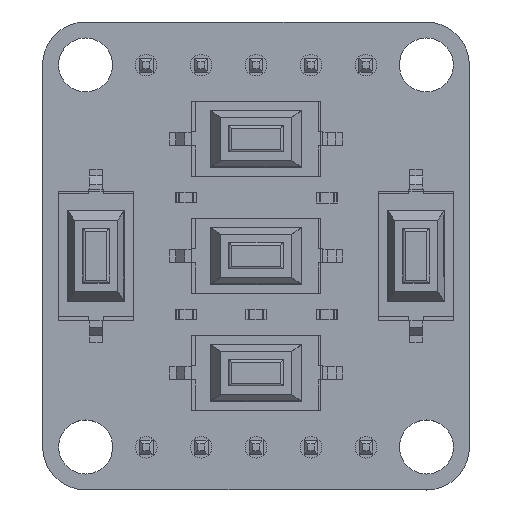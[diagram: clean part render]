
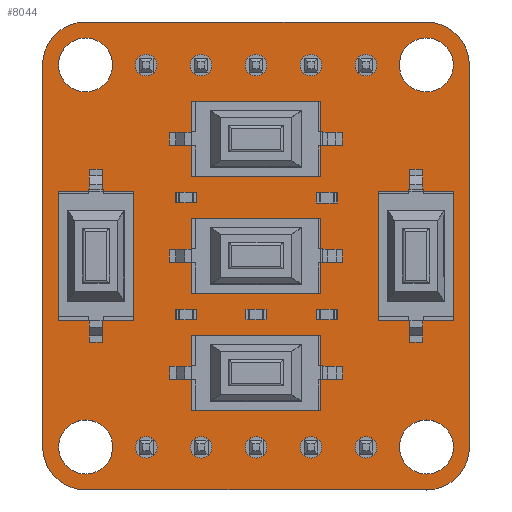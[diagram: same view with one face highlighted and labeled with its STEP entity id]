
A CAD part, top view. The second image highlights one B-rep face of the part: STEP entity #8044.
In plain terms, the highlighted planar face has unit normal (0, 0, 1).
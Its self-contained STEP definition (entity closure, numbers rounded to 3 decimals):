
#7741 = VERTEX_POINT('',#7742);
#7742 = CARTESIAN_POINT('',(187.182,-85.744,1.6));
#7748 = EDGE_CURVE('',#7741,#7749,#7751,.T.);
#7749 = VERTEX_POINT('',#7750);
#7750 = CARTESIAN_POINT('',(189.168,-87.73,1.6));
#7751 = CIRCLE('',#7752,1.986);
#7752 = AXIS2_PLACEMENT_3D('',#7753,#7754,#7755);
#7753 = CARTESIAN_POINT('',(187.182,-87.73,1.6));
#7754 = DIRECTION('',(0.,0.,-1.));
#7755 = DIRECTION('',(0.,1.,0.));
#7783 = VERTEX_POINT('',#7784);
#7784 = CARTESIAN_POINT('',(171.423,-85.744,1.6));
#7790 = EDGE_CURVE('',#7783,#7741,#7791,.T.);
#7791 = LINE('',#7792,#7793);
#7792 = CARTESIAN_POINT('',(171.423,-85.744,1.6));
#7793 = VECTOR('',#7794,1.);
#7794 = DIRECTION('',(1.,0.,0.));
#7812 = EDGE_CURVE('',#7749,#7813,#7815,.T.);
#7813 = VERTEX_POINT('',#7814);
#7814 = CARTESIAN_POINT('',(189.174,-105.395,1.6));
#7815 = LINE('',#7816,#7817);
#7816 = CARTESIAN_POINT('',(189.168,-87.73,1.6));
#7817 = VECTOR('',#7818,1.);
#7818 = DIRECTION('',(0.,-1.,0.));
#8044 = ADVANCED_FACE('',(#8045,#8091,#8102,#8113,#8124,#8135,#8146,
    #8157,#8168,#8179,#8190,#8201,#8212,#8223,#8234),#8245,.T.);
#8045 = FACE_BOUND('',#8046,.T.);
#8046 = EDGE_LOOP('',(#8047,#8048,#8049,#8058,#8066,#8075,#8083,#8090));
#8047 = ORIENTED_EDGE('',*,*,#7748,.F.);
#8048 = ORIENTED_EDGE('',*,*,#7790,.F.);
#8049 = ORIENTED_EDGE('',*,*,#8050,.F.);
#8050 = EDGE_CURVE('',#8051,#7783,#8053,.T.);
#8051 = VERTEX_POINT('',#8052);
#8052 = CARTESIAN_POINT('',(169.437,-87.73,1.6));
#8053 = CIRCLE('',#8054,1.986);
#8054 = AXIS2_PLACEMENT_3D('',#8055,#8056,#8057);
#8055 = CARTESIAN_POINT('',(171.423,-87.73,1.6));
#8056 = DIRECTION('',(0.,0.,-1.));
#8057 = DIRECTION('',(-1.,0.,0.));
#8058 = ORIENTED_EDGE('',*,*,#8059,.F.);
#8059 = EDGE_CURVE('',#8060,#8051,#8062,.T.);
#8060 = VERTEX_POINT('',#8061);
#8061 = CARTESIAN_POINT('',(169.443,-105.395,1.6));
#8062 = LINE('',#8063,#8064);
#8063 = CARTESIAN_POINT('',(169.443,-105.395,1.6));
#8064 = VECTOR('',#8065,1.);
#8065 = DIRECTION('',(0.,1.,0.));
#8066 = ORIENTED_EDGE('',*,*,#8067,.F.);
#8067 = EDGE_CURVE('',#8068,#8060,#8070,.T.);
#8068 = VERTEX_POINT('',#8069);
#8069 = CARTESIAN_POINT('',(171.429,-107.381,1.6));
#8070 = CIRCLE('',#8071,1.986);
#8071 = AXIS2_PLACEMENT_3D('',#8072,#8073,#8074);
#8072 = CARTESIAN_POINT('',(171.429,-105.395,1.6));
#8073 = DIRECTION('',(0.,0.,-1.));
#8074 = DIRECTION('',(0.,-1.,-0.));
#8075 = ORIENTED_EDGE('',*,*,#8076,.F.);
#8076 = EDGE_CURVE('',#8077,#8068,#8079,.T.);
#8077 = VERTEX_POINT('',#8078);
#8078 = CARTESIAN_POINT('',(187.188,-107.381,1.6));
#8079 = LINE('',#8080,#8081);
#8080 = CARTESIAN_POINT('',(187.188,-107.381,1.6));
#8081 = VECTOR('',#8082,1.);
#8082 = DIRECTION('',(-1.,0.,0.));
#8083 = ORIENTED_EDGE('',*,*,#8084,.F.);
#8084 = EDGE_CURVE('',#7813,#8077,#8085,.T.);
#8085 = CIRCLE('',#8086,1.986);
#8086 = AXIS2_PLACEMENT_3D('',#8087,#8088,#8089);
#8087 = CARTESIAN_POINT('',(187.188,-105.395,1.6));
#8088 = DIRECTION('',(0.,0.,-1.));
#8089 = DIRECTION('',(1.,0.,0.));
#8090 = ORIENTED_EDGE('',*,*,#7812,.F.);
#8091 = FACE_BOUND('',#8092,.T.);
#8092 = EDGE_LOOP('',(#8093));
#8093 = ORIENTED_EDGE('',*,*,#8094,.T.);
#8094 = EDGE_CURVE('',#8095,#8095,#8097,.T.);
#8095 = VERTEX_POINT('',#8096);
#8096 = CARTESIAN_POINT('',(171.429,-106.645,1.6));
#8097 = CIRCLE('',#8098,1.25);
#8098 = AXIS2_PLACEMENT_3D('',#8099,#8100,#8101);
#8099 = CARTESIAN_POINT('',(171.429,-105.395,1.6));
#8100 = DIRECTION('',(-0.,0.,-1.));
#8101 = DIRECTION('',(-0.,-1.,0.));
#8102 = FACE_BOUND('',#8103,.T.);
#8103 = EDGE_LOOP('',(#8104));
#8104 = ORIENTED_EDGE('',*,*,#8105,.T.);
#8105 = EDGE_CURVE('',#8106,#8106,#8108,.T.);
#8106 = VERTEX_POINT('',#8107);
#8107 = CARTESIAN_POINT('',(174.23,-105.91,1.6));
#8108 = CIRCLE('',#8109,0.5);
#8109 = AXIS2_PLACEMENT_3D('',#8110,#8111,#8112);
#8110 = CARTESIAN_POINT('',(174.23,-105.41,1.6));
#8111 = DIRECTION('',(-0.,0.,-1.));
#8112 = DIRECTION('',(-0.,-1.,0.));
#8113 = FACE_BOUND('',#8114,.T.);
#8114 = EDGE_LOOP('',(#8115));
#8115 = ORIENTED_EDGE('',*,*,#8116,.T.);
#8116 = EDGE_CURVE('',#8117,#8117,#8119,.T.);
#8117 = VERTEX_POINT('',#8118);
#8118 = CARTESIAN_POINT('',(176.77,-105.91,1.6));
#8119 = CIRCLE('',#8120,0.5);
#8120 = AXIS2_PLACEMENT_3D('',#8121,#8122,#8123);
#8121 = CARTESIAN_POINT('',(176.77,-105.41,1.6));
#8122 = DIRECTION('',(-0.,0.,-1.));
#8123 = DIRECTION('',(-0.,-1.,0.));
#8124 = FACE_BOUND('',#8125,.T.);
#8125 = EDGE_LOOP('',(#8126));
#8126 = ORIENTED_EDGE('',*,*,#8127,.T.);
#8127 = EDGE_CURVE('',#8128,#8128,#8130,.T.);
#8128 = VERTEX_POINT('',#8129);
#8129 = CARTESIAN_POINT('',(179.31,-105.91,1.6));
#8130 = CIRCLE('',#8131,0.5);
#8131 = AXIS2_PLACEMENT_3D('',#8132,#8133,#8134);
#8132 = CARTESIAN_POINT('',(179.31,-105.41,1.6));
#8133 = DIRECTION('',(-0.,0.,-1.));
#8134 = DIRECTION('',(-0.,-1.,0.));
#8135 = FACE_BOUND('',#8136,.T.);
#8136 = EDGE_LOOP('',(#8137));
#8137 = ORIENTED_EDGE('',*,*,#8138,.T.);
#8138 = EDGE_CURVE('',#8139,#8139,#8141,.T.);
#8139 = VERTEX_POINT('',#8140);
#8140 = CARTESIAN_POINT('',(181.85,-105.91,1.6));
#8141 = CIRCLE('',#8142,0.5);
#8142 = AXIS2_PLACEMENT_3D('',#8143,#8144,#8145);
#8143 = CARTESIAN_POINT('',(181.85,-105.41,1.6));
#8144 = DIRECTION('',(-0.,0.,-1.));
#8145 = DIRECTION('',(-0.,-1.,0.));
#8146 = FACE_BOUND('',#8147,.T.);
#8147 = EDGE_LOOP('',(#8148));
#8148 = ORIENTED_EDGE('',*,*,#8149,.T.);
#8149 = EDGE_CURVE('',#8150,#8150,#8152,.T.);
#8150 = VERTEX_POINT('',#8151);
#8151 = CARTESIAN_POINT('',(184.39,-105.91,1.6));
#8152 = CIRCLE('',#8153,0.5);
#8153 = AXIS2_PLACEMENT_3D('',#8154,#8155,#8156);
#8154 = CARTESIAN_POINT('',(184.39,-105.41,1.6));
#8155 = DIRECTION('',(-0.,0.,-1.));
#8156 = DIRECTION('',(-0.,-1.,0.));
#8157 = FACE_BOUND('',#8158,.T.);
#8158 = EDGE_LOOP('',(#8159));
#8159 = ORIENTED_EDGE('',*,*,#8160,.T.);
#8160 = EDGE_CURVE('',#8161,#8161,#8163,.T.);
#8161 = VERTEX_POINT('',#8162);
#8162 = CARTESIAN_POINT('',(187.188,-106.645,1.6));
#8163 = CIRCLE('',#8164,1.25);
#8164 = AXIS2_PLACEMENT_3D('',#8165,#8166,#8167);
#8165 = CARTESIAN_POINT('',(187.188,-105.395,1.6));
#8166 = DIRECTION('',(-0.,0.,-1.));
#8167 = DIRECTION('',(-0.,-1.,0.));
#8168 = FACE_BOUND('',#8169,.T.);
#8169 = EDGE_LOOP('',(#8170));
#8170 = ORIENTED_EDGE('',*,*,#8171,.T.);
#8171 = EDGE_CURVE('',#8172,#8172,#8174,.T.);
#8172 = VERTEX_POINT('',#8173);
#8173 = CARTESIAN_POINT('',(171.423,-88.98,1.6));
#8174 = CIRCLE('',#8175,1.25);
#8175 = AXIS2_PLACEMENT_3D('',#8176,#8177,#8178);
#8176 = CARTESIAN_POINT('',(171.423,-87.73,1.6));
#8177 = DIRECTION('',(-0.,0.,-1.));
#8178 = DIRECTION('',(-0.,-1.,0.));
#8179 = FACE_BOUND('',#8180,.T.);
#8180 = EDGE_LOOP('',(#8181));
#8181 = ORIENTED_EDGE('',*,*,#8182,.T.);
#8182 = EDGE_CURVE('',#8183,#8183,#8185,.T.);
#8183 = VERTEX_POINT('',#8184);
#8184 = CARTESIAN_POINT('',(174.225,-88.24,1.6));
#8185 = CIRCLE('',#8186,0.5);
#8186 = AXIS2_PLACEMENT_3D('',#8187,#8188,#8189);
#8187 = CARTESIAN_POINT('',(174.225,-87.74,1.6));
#8188 = DIRECTION('',(-0.,0.,-1.));
#8189 = DIRECTION('',(-0.,-1.,0.));
#8190 = FACE_BOUND('',#8191,.T.);
#8191 = EDGE_LOOP('',(#8192));
#8192 = ORIENTED_EDGE('',*,*,#8193,.T.);
#8193 = EDGE_CURVE('',#8194,#8194,#8196,.T.);
#8194 = VERTEX_POINT('',#8195);
#8195 = CARTESIAN_POINT('',(176.765,-88.24,1.6));
#8196 = CIRCLE('',#8197,0.5);
#8197 = AXIS2_PLACEMENT_3D('',#8198,#8199,#8200);
#8198 = CARTESIAN_POINT('',(176.765,-87.74,1.6));
#8199 = DIRECTION('',(-0.,0.,-1.));
#8200 = DIRECTION('',(-0.,-1.,0.));
#8201 = FACE_BOUND('',#8202,.T.);
#8202 = EDGE_LOOP('',(#8203));
#8203 = ORIENTED_EDGE('',*,*,#8204,.T.);
#8204 = EDGE_CURVE('',#8205,#8205,#8207,.T.);
#8205 = VERTEX_POINT('',#8206);
#8206 = CARTESIAN_POINT('',(179.305,-88.24,1.6));
#8207 = CIRCLE('',#8208,0.5);
#8208 = AXIS2_PLACEMENT_3D('',#8209,#8210,#8211);
#8209 = CARTESIAN_POINT('',(179.305,-87.74,1.6));
#8210 = DIRECTION('',(-0.,0.,-1.));
#8211 = DIRECTION('',(-0.,-1.,0.));
#8212 = FACE_BOUND('',#8213,.T.);
#8213 = EDGE_LOOP('',(#8214));
#8214 = ORIENTED_EDGE('',*,*,#8215,.T.);
#8215 = EDGE_CURVE('',#8216,#8216,#8218,.T.);
#8216 = VERTEX_POINT('',#8217);
#8217 = CARTESIAN_POINT('',(181.845,-88.24,1.6));
#8218 = CIRCLE('',#8219,0.5);
#8219 = AXIS2_PLACEMENT_3D('',#8220,#8221,#8222);
#8220 = CARTESIAN_POINT('',(181.845,-87.74,1.6));
#8221 = DIRECTION('',(-0.,0.,-1.));
#8222 = DIRECTION('',(-0.,-1.,0.));
#8223 = FACE_BOUND('',#8224,.T.);
#8224 = EDGE_LOOP('',(#8225));
#8225 = ORIENTED_EDGE('',*,*,#8226,.T.);
#8226 = EDGE_CURVE('',#8227,#8227,#8229,.T.);
#8227 = VERTEX_POINT('',#8228);
#8228 = CARTESIAN_POINT('',(184.385,-88.24,1.6));
#8229 = CIRCLE('',#8230,0.5);
#8230 = AXIS2_PLACEMENT_3D('',#8231,#8232,#8233);
#8231 = CARTESIAN_POINT('',(184.385,-87.74,1.6));
#8232 = DIRECTION('',(-0.,0.,-1.));
#8233 = DIRECTION('',(-0.,-1.,0.));
#8234 = FACE_BOUND('',#8235,.T.);
#8235 = EDGE_LOOP('',(#8236));
#8236 = ORIENTED_EDGE('',*,*,#8237,.T.);
#8237 = EDGE_CURVE('',#8238,#8238,#8240,.T.);
#8238 = VERTEX_POINT('',#8239);
#8239 = CARTESIAN_POINT('',(187.182,-88.98,1.6));
#8240 = CIRCLE('',#8241,1.25);
#8241 = AXIS2_PLACEMENT_3D('',#8242,#8243,#8244);
#8242 = CARTESIAN_POINT('',(187.182,-87.73,1.6));
#8243 = DIRECTION('',(-0.,0.,-1.));
#8244 = DIRECTION('',(-0.,-1.,0.));
#8245 = PLANE('',#8246);
#8246 = AXIS2_PLACEMENT_3D('',#8247,#8248,#8249);
#8247 = CARTESIAN_POINT('',(0.,0.,1.6));
#8248 = DIRECTION('',(0.,0.,1.));
#8249 = DIRECTION('',(1.,0.,-0.));
